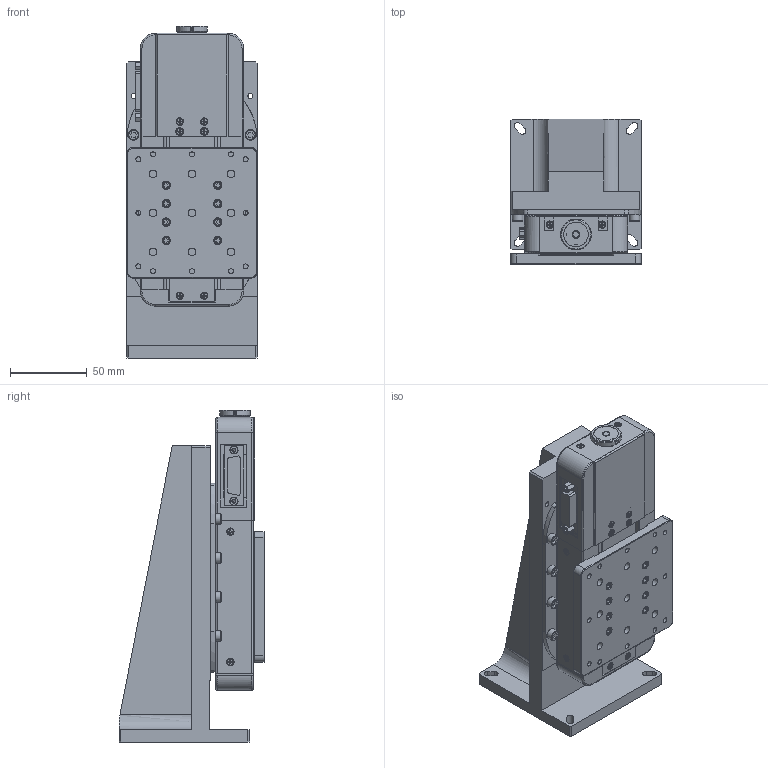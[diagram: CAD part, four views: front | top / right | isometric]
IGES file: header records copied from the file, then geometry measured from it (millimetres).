
Global section: file name: OSMS20-35(Z)-INCH_IGS; native system: Autodesk Inventor 2015; preprocessor: unknown; author: s.makino; date: 20151203.131038; units: millimetre
Bounding box: 85 x 95 x 216.4 mm (x, y, z)
Volume: 673122 mm3; surface area: 209476.6 mm2
Topology: 53 solids, 70 shells, 2332 faces, 6073 edges, 3999 vertices
Faces by surface type: bspline 2332
